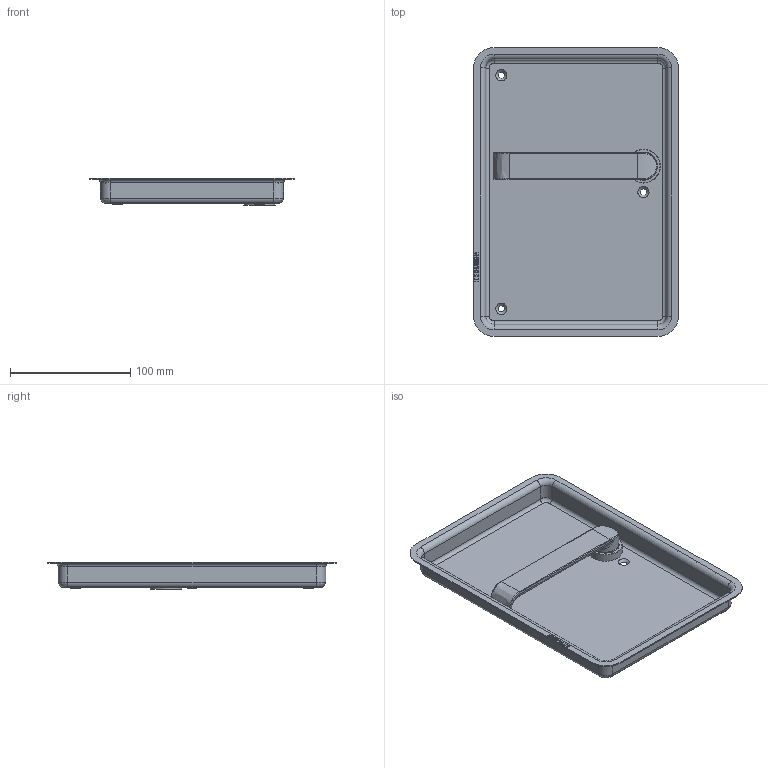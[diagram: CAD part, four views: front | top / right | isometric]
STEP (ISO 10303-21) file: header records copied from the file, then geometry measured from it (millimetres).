
FILE_DESCRIPTION(/* description */ (''),/* implementation_level */ '2;1');
FILE_NAME(/* name */ 'C:\ADSK_DMS_WS\Designs\Vorschläge\Loc Schalen\Muschel Serie 3\S3.20.D1Links\Heusser-Muschel S3.20.D1.0L.stp',/* time_stamp */ '2020-11-21T10:47:08+01:00',/* author */ ('gm'),/* organization */ (''),/* preprocessor_version */ 'ST-DEVELOPER v16.5',/* originating_system */ 'Autodesk Inventor 2017',/* authorisation */ '');
FILE_SCHEMA (('AUTOMOTIVE_DESIGN { 1 0 10303 214 3 1 1 }'));
Length unit declared in the file: millimetre
Products named in the file (1): S3.20.D1.L
Bounding box: 170 x 240 x 23 mm (x, y, z)
Volume: 72795.4 mm3; surface area: 116684.7 mm2
Topology: 1 solids, 2 shells, 304 faces, 757 edges, 480 vertices
Faces by surface type: plane 130, bspline 82, cylinder 61, cone 16, torus 15
Full cylindrical faces by diameter (mm): 1.7 x2, 6 x1, 14.2 x1, 16 x3, 18 x1, 19 x1, 19.1 x1, 22 x1, 23 x1, 23.2 x1, 24 x1, 25 x1, 26 x1, 28 x1
Entity records: 10127 total; most frequent: CARTESIAN_POINT 3017, ORIENTED_EDGE 1428, DIRECTION 1252, EDGE_CURVE 714, VERTEX_POINT 474, AXIS2_PLACEMENT_3D 429, LINE 394, VECTOR 394
